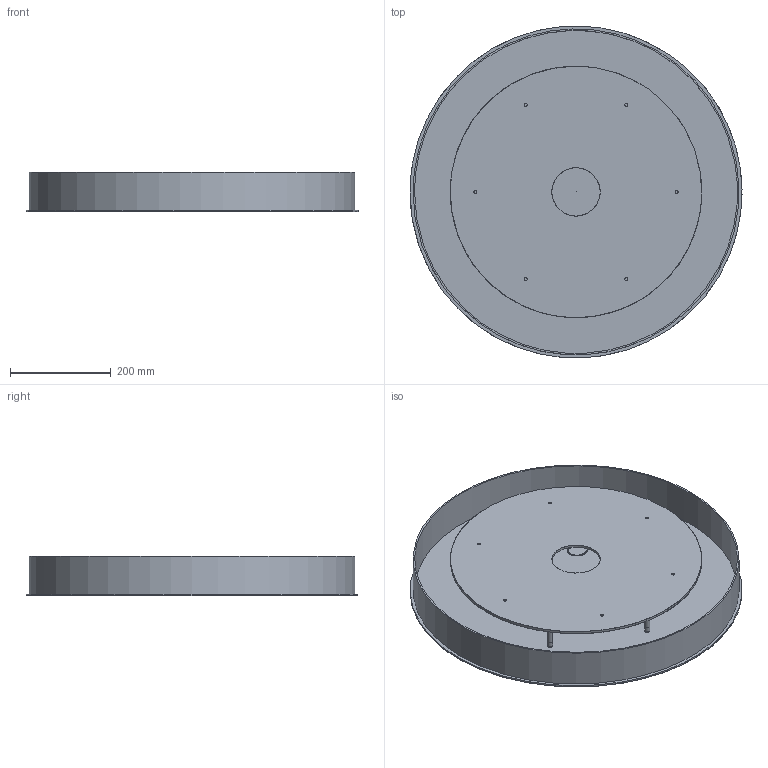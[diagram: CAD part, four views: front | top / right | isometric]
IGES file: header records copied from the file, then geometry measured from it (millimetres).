
Global section: file name: /Users/danielszollosi/Documents/SkLO/DEVELOPMENT/LIGHT 2024/MULTIPENDANT CANOPIES/Round Multipendant Canopies/SkLO_Round_Canopy_26_MCR26/3D/SkLO_Round_Canopy_26_MCR26_3D.igs; native system: Rhinoceros ( Sep 24 2023 ); preprocessor: Trout Lake IGES 012 Sep 24 2023; date: 241018.213744; units: millimetre
Bounding box: 659.97 x 659.93 x 78.26 mm (x, y, z)
Surface area: 1416537.7 mm2 (no closed solid volume)
Topology: 0 solids, 0 shells, 209 faces, 1168 edges, 1056 vertices
Faces by surface type: bspline 209
